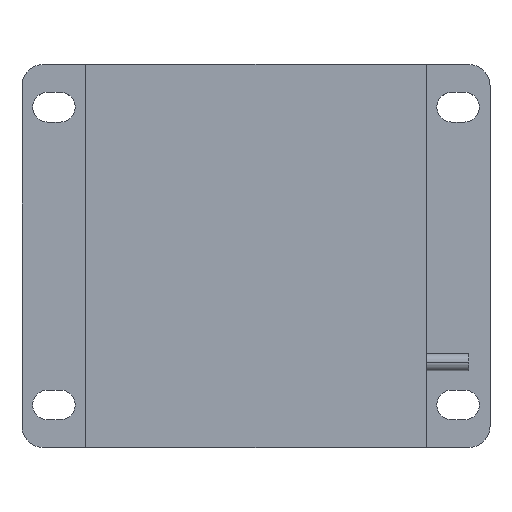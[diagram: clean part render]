
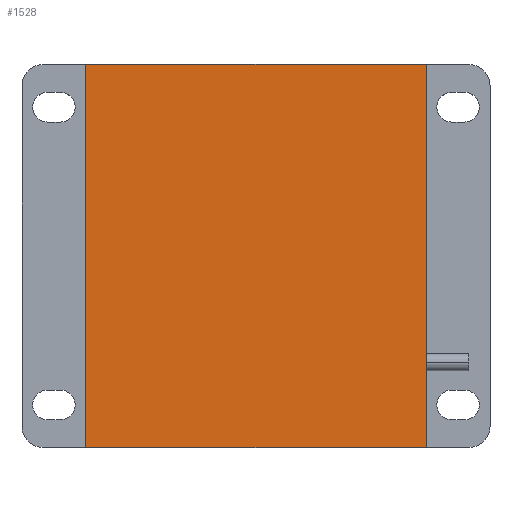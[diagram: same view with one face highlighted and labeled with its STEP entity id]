
A CAD part, top view. The second image highlights one B-rep face of the part: STEP entity #1528.
In plain terms, the highlighted planar face has unit normal (0, 0, 1).
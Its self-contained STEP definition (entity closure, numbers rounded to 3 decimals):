
#71 = DIRECTION ( 'NONE',  ( 1., 0., 0. ) ) ;
#72 = DIRECTION ( 'NONE',  ( 0., 1., 0. ) ) ;
#73 = LINE ( 'NONE', #876, #624 ) ;
#178 = CARTESIAN_POINT ( 'NONE',  ( 40., -45., 19. ) ) ;
#293 = VERTEX_POINT ( 'NONE', #1054 ) ;
#354 = CARTESIAN_POINT ( 'NONE',  ( 0., 0., 19. ) ) ;
#371 = CARTESIAN_POINT ( 'NONE',  ( 40., 45., 19. ) ) ;
#384 = VECTOR ( 'NONE', #591, 1000. ) ;
#385 = LINE ( 'NONE', #178, #990 ) ;
#393 = EDGE_CURVE ( 'NONE', #514, #1464, #1333, .T. ) ;
#514 = VERTEX_POINT ( 'NONE', #973 ) ;
#591 = DIRECTION ( 'NONE',  ( -1., 0., 0. ) ) ;
#592 = CARTESIAN_POINT ( 'NONE',  ( 40., -45., 19. ) ) ;
#620 = DIRECTION ( 'NONE',  ( 1., 0., 0. ) ) ;
#624 = VECTOR ( 'NONE', #1341, 1000. ) ;
#646 = EDGE_CURVE ( 'NONE', #871, #514, #385, .T. ) ;
#648 = ORIENTED_EDGE ( 'NONE', *, *, #646, .T. ) ;
#674 = EDGE_CURVE ( 'NONE', #1464, #293, #73, .T. ) ;
#749 = FACE_OUTER_BOUND ( 'NONE', #858, .T. ) ;
#780 = DIRECTION ( 'NONE',  ( 0., 0., 1. ) ) ;
#806 = CARTESIAN_POINT ( 'NONE',  ( -40., 45., 19. ) ) ;
#858 = EDGE_LOOP ( 'NONE', ( #648, #1498, #1070, #1102 ) ) ;
#871 = VERTEX_POINT ( 'NONE', #1446 ) ;
#876 = CARTESIAN_POINT ( 'NONE',  ( -40., -45., 19. ) ) ;
#913 = VECTOR ( 'NONE', #620, 1000. ) ;
#973 = CARTESIAN_POINT ( 'NONE',  ( 40., 45., 19. ) ) ;
#990 = VECTOR ( 'NONE', #72, 1000. ) ;
#1054 = CARTESIAN_POINT ( 'NONE',  ( -40., -45., 19. ) ) ;
#1070 = ORIENTED_EDGE ( 'NONE', *, *, #674, .T. ) ;
#1102 = ORIENTED_EDGE ( 'NONE', *, *, #1276, .T. ) ;
#1134 = PLANE ( 'NONE',  #1200 ) ;
#1180 = LINE ( 'NONE', #592, #913 ) ;
#1200 = AXIS2_PLACEMENT_3D ( 'NONE', #354, #780, #71 ) ;
#1276 = EDGE_CURVE ( 'NONE', #293, #871, #1180, .T. ) ;
#1333 = LINE ( 'NONE', #371, #384 ) ;
#1341 = DIRECTION ( 'NONE',  ( 0., -1., 0. ) ) ;
#1446 = CARTESIAN_POINT ( 'NONE',  ( 40., -45., 19. ) ) ;
#1464 = VERTEX_POINT ( 'NONE', #806 ) ;
#1498 = ORIENTED_EDGE ( 'NONE', *, *, #393, .T. ) ;
#1528 = ADVANCED_FACE ( 'NONE', ( #749 ), #1134, .T. ) ;
